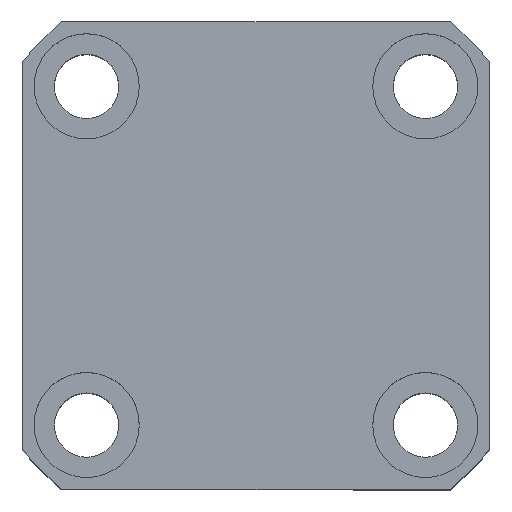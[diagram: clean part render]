
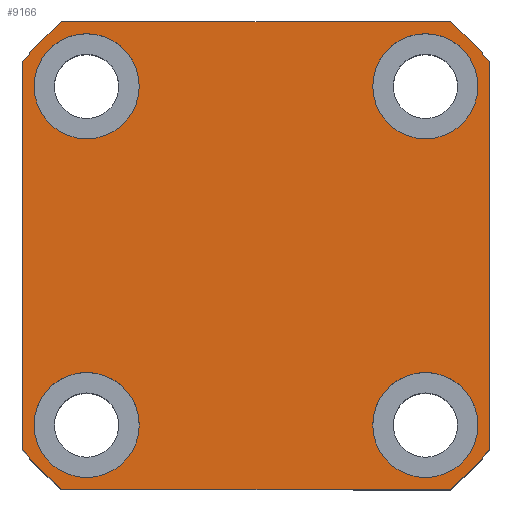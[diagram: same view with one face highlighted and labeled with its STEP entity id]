
A CAD part, top view. The second image highlights one B-rep face of the part: STEP entity #9166.
In plain terms, the highlighted planar face has unit normal (0, 0, 1).
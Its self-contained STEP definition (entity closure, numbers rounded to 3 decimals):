
#133 = LINE ( 'NONE', #10662, #3511 ) ;
#201 = EDGE_CURVE ( 'NONE', #7235, #14373, #6619, .T. ) ;
#258 = DIRECTION ( 'NONE',  ( 0., 0., 1. ) ) ;
#307 = EDGE_CURVE ( 'NONE', #14283, #5416, #13226, .T. ) ;
#599 = ORIENTED_EDGE ( 'NONE', *, *, #5738, .T. ) ;
#698 = CARTESIAN_POINT ( 'NONE',  ( -38., 29., 37.5 ) ) ;
#786 = ORIENTED_EDGE ( 'NONE', *, *, #5434, .T. ) ;
#789 = FACE_BOUND ( 'NONE', #1376, .T. ) ;
#1016 = CARTESIAN_POINT ( 'NONE',  ( -29., 29., 37.5 ) ) ;
#1075 = VERTEX_POINT ( 'NONE', #1499 ) ;
#1088 = ORIENTED_EDGE ( 'NONE', *, *, #307, .F. ) ;
#1103 = VERTEX_POINT ( 'NONE', #4996 ) ;
#1186 = ORIENTED_EDGE ( 'NONE', *, *, #7019, .F. ) ;
#1240 = CIRCLE ( 'NONE', #11900, 52. ) ;
#1285 = CARTESIAN_POINT ( 'NONE',  ( -38., -29., 37.5 ) ) ;
#1313 = FACE_BOUND ( 'NONE', #6224, .T. ) ;
#1376 = EDGE_LOOP ( 'NONE', ( #12541, #12397 ) ) ;
#1397 = CARTESIAN_POINT ( 'NONE',  ( 33.226, -40., 37.5 ) ) ;
#1499 = CARTESIAN_POINT ( 'NONE',  ( 33.226, 40., 37.5 ) ) ;
#1514 = VERTEX_POINT ( 'NONE', #2481 ) ;
#1531 = CARTESIAN_POINT ( 'NONE',  ( -33.226, -40., 37.5 ) ) ;
#1726 = AXIS2_PLACEMENT_3D ( 'NONE', #12591, #4685, #10511 ) ;
#1874 = EDGE_LOOP ( 'NONE', ( #786, #11155, #3354, #2904, #1951, #14359, #14127, #599 ) ) ;
#1951 = ORIENTED_EDGE ( 'NONE', *, *, #14464, .T. ) ;
#2305 = DIRECTION ( 'NONE',  ( 0., 0., 1. ) ) ;
#2337 = EDGE_CURVE ( 'NONE', #7573, #1103, #12702, .T. ) ;
#2448 = AXIS2_PLACEMENT_3D ( 'NONE', #11037, #3245, #13476 ) ;
#2481 = CARTESIAN_POINT ( 'NONE',  ( -40., -33.226, 37.5 ) ) ;
#2777 = ORIENTED_EDGE ( 'NONE', *, *, #201, .F. ) ;
#2878 = DIRECTION ( 'NONE',  ( 0., 0., 1. ) ) ;
#2904 = ORIENTED_EDGE ( 'NONE', *, *, #11607, .T. ) ;
#2988 = ORIENTED_EDGE ( 'NONE', *, *, #3738, .F. ) ;
#2994 = AXIS2_PLACEMENT_3D ( 'NONE', #14052, #4958, #7203 ) ;
#3040 = CIRCLE ( 'NONE', #1726, 9. ) ;
#3143 = DIRECTION ( 'NONE',  ( 0., 0., 1. ) ) ;
#3178 = PLANE ( 'NONE',  #14511 ) ;
#3223 = CARTESIAN_POINT ( 'NONE',  ( -29., 29., 37.5 ) ) ;
#3245 = DIRECTION ( 'NONE',  ( 0., 0., 1. ) ) ;
#3285 = VERTEX_POINT ( 'NONE', #11674 ) ;
#3354 = ORIENTED_EDGE ( 'NONE', *, *, #8073, .T. ) ;
#3472 = LINE ( 'NONE', #4689, #12758 ) ;
#3481 = VERTEX_POINT ( 'NONE', #1397 ) ;
#3511 = VECTOR ( 'NONE', #3786, 1000. ) ;
#3738 = EDGE_CURVE ( 'NONE', #1103, #7573, #9649, .T. ) ;
#3786 = DIRECTION ( 'NONE',  ( -1., 0., 0. ) ) ;
#3891 = AXIS2_PLACEMENT_3D ( 'NONE', #3223, #4359, #13293 ) ;
#3996 = FACE_BOUND ( 'NONE', #5810, .T. ) ;
#4359 = DIRECTION ( 'NONE',  ( 0., 0., 1. ) ) ;
#4362 = CIRCLE ( 'NONE', #5517, 52. ) ;
#4490 = DIRECTION ( 'NONE',  ( 1., 0., 0. ) ) ;
#4541 = FACE_BOUND ( 'NONE', #9685, .T. ) ;
#4685 = DIRECTION ( 'NONE',  ( 0., 0., 1. ) ) ;
#4689 = CARTESIAN_POINT ( 'NONE',  ( 40., 33.226, 37.5 ) ) ;
#4769 = EDGE_CURVE ( 'NONE', #5357, #11692, #12481, .T. ) ;
#4958 = DIRECTION ( 'NONE',  ( 0., 0., 1. ) ) ;
#4996 = CARTESIAN_POINT ( 'NONE',  ( 38., -29., 37.5 ) ) ;
#5195 = EDGE_CURVE ( 'NONE', #11591, #1075, #14626, .T. ) ;
#5357 = VERTEX_POINT ( 'NONE', #8771 ) ;
#5416 = VERTEX_POINT ( 'NONE', #698 ) ;
#5434 = EDGE_CURVE ( 'NONE', #3285, #11840, #11401, .T. ) ;
#5517 = AXIS2_PLACEMENT_3D ( 'NONE', #6361, #2878, #7471 ) ;
#5585 = CARTESIAN_POINT ( 'NONE',  ( 0., 0., 37.5 ) ) ;
#5623 = CARTESIAN_POINT ( 'NONE',  ( 0., 0., 37.5 ) ) ;
#5738 = EDGE_CURVE ( 'NONE', #1075, #3285, #133, .T. ) ;
#5810 = EDGE_LOOP ( 'NONE', ( #2988, #10112 ) ) ;
#5856 = DIRECTION ( 'NONE',  ( 1., 0., 0. ) ) ;
#6224 = EDGE_LOOP ( 'NONE', ( #8726, #2777 ) ) ;
#6235 = CARTESIAN_POINT ( 'NONE',  ( -40., 33.226, 37.5 ) ) ;
#6361 = CARTESIAN_POINT ( 'NONE',  ( 0., 0., 37.5 ) ) ;
#6564 = DIRECTION ( 'NONE',  ( 0., 0., 1. ) ) ;
#6604 = DIRECTION ( 'NONE',  ( 0., 0., 1. ) ) ;
#6619 = CIRCLE ( 'NONE', #13345, 9. ) ;
#6620 = CARTESIAN_POINT ( 'NONE',  ( -20., 29., 37.5 ) ) ;
#6660 = DIRECTION ( 'NONE',  ( 0., 0., 1. ) ) ;
#7019 = EDGE_CURVE ( 'NONE', #5416, #14283, #10841, .T. ) ;
#7203 = DIRECTION ( 'NONE',  ( 1., 0., 0. ) ) ;
#7235 = VERTEX_POINT ( 'NONE', #1285 ) ;
#7408 = AXIS2_PLACEMENT_3D ( 'NONE', #1016, #2305, #7913 ) ;
#7471 = DIRECTION ( 'NONE',  ( 1., 0., 0. ) ) ;
#7573 = VERTEX_POINT ( 'NONE', #9516 ) ;
#7913 = DIRECTION ( 'NONE',  ( 1., 0., 0. ) ) ;
#7966 = DIRECTION ( 'NONE',  ( 0., 0., 1. ) ) ;
#8057 = CARTESIAN_POINT ( 'NONE',  ( -40., 33.226, 37.5 ) ) ;
#8073 = EDGE_CURVE ( 'NONE', #1514, #9544, #4362, .T. ) ;
#8238 = CARTESIAN_POINT ( 'NONE',  ( 40., -33.226, 37.5 ) ) ;
#8726 = ORIENTED_EDGE ( 'NONE', *, *, #14646, .F. ) ;
#8771 = CARTESIAN_POINT ( 'NONE',  ( 20., 29., 37.5 ) ) ;
#8810 = AXIS2_PLACEMENT_3D ( 'NONE', #13410, #6564, #8919 ) ;
#8880 = EDGE_CURVE ( 'NONE', #12216, #11591, #3472, .T. ) ;
#8919 = DIRECTION ( 'NONE',  ( 1., 0., 0. ) ) ;
#9166 = ADVANCED_FACE ( 'NONE', ( #3996, #1313, #4541, #789, #14195 ), #3178, .T. ) ;
#9502 = CARTESIAN_POINT ( 'NONE',  ( -33.226, -40., 37.5 ) ) ;
#9516 = CARTESIAN_POINT ( 'NONE',  ( 20., -29., 37.5 ) ) ;
#9544 = VERTEX_POINT ( 'NONE', #1531 ) ;
#9649 = CIRCLE ( 'NONE', #2448, 9. ) ;
#9685 = EDGE_LOOP ( 'NONE', ( #1088, #1186 ) ) ;
#10010 = DIRECTION ( 'NONE',  ( 1., 0., 0. ) ) ;
#10112 = ORIENTED_EDGE ( 'NONE', *, *, #2337, .F. ) ;
#10237 = VECTOR ( 'NONE', #10420, 1000. ) ;
#10254 = DIRECTION ( 'NONE',  ( 0., 0., 1. ) ) ;
#10420 = DIRECTION ( 'NONE',  ( 0., -1., 0. ) ) ;
#10477 = CARTESIAN_POINT ( 'NONE',  ( 40., 33.226, 37.5 ) ) ;
#10511 = DIRECTION ( 'NONE',  ( 1., 0., 0. ) ) ;
#10525 = DIRECTION ( 'NONE',  ( 1., 0., 0. ) ) ;
#10662 = CARTESIAN_POINT ( 'NONE',  ( -33.226, 40., 37.5 ) ) ;
#10673 = CARTESIAN_POINT ( 'NONE',  ( 38., 29., 37.5 ) ) ;
#10841 = CIRCLE ( 'NONE', #7408, 9. ) ;
#10947 = AXIS2_PLACEMENT_3D ( 'NONE', #13365, #3143, #13422 ) ;
#11037 = CARTESIAN_POINT ( 'NONE',  ( 29., -29., 37.5 ) ) ;
#11155 = ORIENTED_EDGE ( 'NONE', *, *, #11789, .T. ) ;
#11294 = CARTESIAN_POINT ( 'NONE',  ( -20., -29., 37.5 ) ) ;
#11401 = CIRCLE ( 'NONE', #10947, 52. ) ;
#11408 = DIRECTION ( 'NONE',  ( 0., 1., 0. ) ) ;
#11591 = VERTEX_POINT ( 'NONE', #10477 ) ;
#11601 = CARTESIAN_POINT ( 'NONE',  ( 29., -29., 37.5 ) ) ;
#11607 = EDGE_CURVE ( 'NONE', #9544, #3481, #13974, .T. ) ;
#11674 = CARTESIAN_POINT ( 'NONE',  ( -33.226, 40., 37.5 ) ) ;
#11692 = VERTEX_POINT ( 'NONE', #10673 ) ;
#11789 = EDGE_CURVE ( 'NONE', #11840, #1514, #12547, .T. ) ;
#11840 = VERTEX_POINT ( 'NONE', #6235 ) ;
#11900 = AXIS2_PLACEMENT_3D ( 'NONE', #5585, #10254, #4490 ) ;
#12216 = VERTEX_POINT ( 'NONE', #8238 ) ;
#12397 = ORIENTED_EDGE ( 'NONE', *, *, #4769, .F. ) ;
#12469 = DIRECTION ( 'NONE',  ( 1., 0., 0. ) ) ;
#12481 = CIRCLE ( 'NONE', #12879, 9. ) ;
#12541 = ORIENTED_EDGE ( 'NONE', *, *, #14247, .F. ) ;
#12547 = LINE ( 'NONE', #8057, #10237 ) ;
#12591 = CARTESIAN_POINT ( 'NONE',  ( -29., -29., 37.5 ) ) ;
#12702 = CIRCLE ( 'NONE', #13724, 9. ) ;
#12704 = CARTESIAN_POINT ( 'NONE',  ( 29., 29., 37.5 ) ) ;
#12758 = VECTOR ( 'NONE', #11408, 1000. ) ;
#12833 = DIRECTION ( 'NONE',  ( 1., 0., 0. ) ) ;
#12879 = AXIS2_PLACEMENT_3D ( 'NONE', #12704, #7966, #5856 ) ;
#13226 = CIRCLE ( 'NONE', #3891, 9. ) ;
#13293 = DIRECTION ( 'NONE',  ( 1., 0., 0. ) ) ;
#13340 = CARTESIAN_POINT ( 'NONE',  ( -29., -29., 37.5 ) ) ;
#13345 = AXIS2_PLACEMENT_3D ( 'NONE', #13340, #6604, #10010 ) ;
#13365 = CARTESIAN_POINT ( 'NONE',  ( 0., 0., 37.5 ) ) ;
#13374 = CIRCLE ( 'NONE', #8810, 9. ) ;
#13410 = CARTESIAN_POINT ( 'NONE',  ( 29., 29., 37.5 ) ) ;
#13422 = DIRECTION ( 'NONE',  ( 1., 0., 0. ) ) ;
#13432 = VECTOR ( 'NONE', #10525, 1000. ) ;
#13476 = DIRECTION ( 'NONE',  ( 1., 0., 0. ) ) ;
#13724 = AXIS2_PLACEMENT_3D ( 'NONE', #11601, #258, #12833 ) ;
#13974 = LINE ( 'NONE', #9502, #13432 ) ;
#14052 = CARTESIAN_POINT ( 'NONE',  ( 0., 0., 37.5 ) ) ;
#14127 = ORIENTED_EDGE ( 'NONE', *, *, #5195, .T. ) ;
#14195 = FACE_OUTER_BOUND ( 'NONE', #1874, .T. ) ;
#14247 = EDGE_CURVE ( 'NONE', #11692, #5357, #13374, .T. ) ;
#14283 = VERTEX_POINT ( 'NONE', #6620 ) ;
#14359 = ORIENTED_EDGE ( 'NONE', *, *, #8880, .T. ) ;
#14373 = VERTEX_POINT ( 'NONE', #11294 ) ;
#14464 = EDGE_CURVE ( 'NONE', #3481, #12216, #1240, .T. ) ;
#14511 = AXIS2_PLACEMENT_3D ( 'NONE', #5623, #6660, #12469 ) ;
#14626 = CIRCLE ( 'NONE', #2994, 52. ) ;
#14646 = EDGE_CURVE ( 'NONE', #14373, #7235, #3040, .T. ) ;
